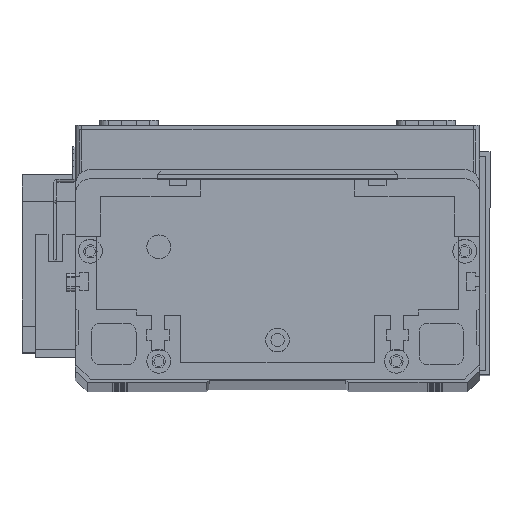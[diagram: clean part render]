
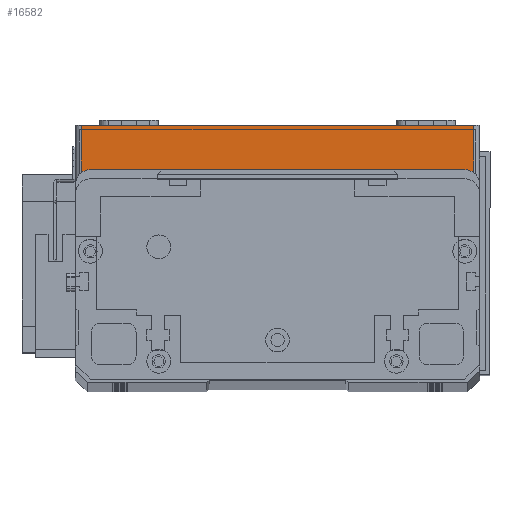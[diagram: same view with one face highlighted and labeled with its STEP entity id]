
A CAD part, top view. The second image highlights one B-rep face of the part: STEP entity #16582.
In plain terms, the highlighted planar face has unit normal (0, 0, 1) as drawn and (0, -1, 0) by its records, which use the part's own axes.
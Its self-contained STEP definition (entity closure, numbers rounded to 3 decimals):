
#252 = PLANE ( 'NONE',  #4246 ) ;
#352 = DIRECTION ( 'NONE',  ( 0., 1., 0. ) ) ;
#855 = FACE_OUTER_BOUND ( 'NONE', #5738, .T. ) ;
#880 = ORIENTED_EDGE ( 'NONE', *, *, #25293, .T. ) ;
#1802 = CARTESIAN_POINT ( 'NONE',  ( 0., 0., 19.5 ) ) ;
#4246 = AXIS2_PLACEMENT_3D ( 'NONE', #14208, #352, #16556 ) ;
#4679 = VECTOR ( 'NONE', #20332, 1000. ) ;
#5738 = EDGE_LOOP ( 'NONE', ( #5818, #29627, #20882, #880 ) ) ;
#5818 = ORIENTED_EDGE ( 'NONE', *, *, #29061, .F. ) ;
#6071 = VECTOR ( 'NONE', #10865, 1000. ) ;
#6216 = EDGE_CURVE ( 'NONE', #21687, #16202, #7495, .T. ) ;
#7495 = LINE ( 'NONE', #8534, #6071 ) ;
#8189 = CARTESIAN_POINT ( 'NONE',  ( 2., 0., 19.5 ) ) ;
#8534 = CARTESIAN_POINT ( 'NONE',  ( 2., 0., 19.5 ) ) ;
#9792 = VECTOR ( 'NONE', #21276, 1000. ) ;
#10267 = VECTOR ( 'NONE', #16911, 1000. ) ;
#10865 = DIRECTION ( 'NONE',  ( 0., 0., -1. ) ) ;
#10890 = EDGE_CURVE ( 'NONE', #16202, #22338, #18174, .T. ) ;
#11461 = VERTEX_POINT ( 'NONE', #13956 ) ;
#12036 = CARTESIAN_POINT ( 'NONE',  ( 0., 0., 0. ) ) ;
#12041 = CARTESIAN_POINT ( 'NONE',  ( 134., 0., 19.5 ) ) ;
#12391 = CARTESIAN_POINT ( 'NONE',  ( 2., 0., 0. ) ) ;
#13049 = CARTESIAN_POINT ( 'NONE',  ( 134., 0., 0. ) ) ;
#13956 = CARTESIAN_POINT ( 'NONE',  ( 134., 0., 19.5 ) ) ;
#14208 = CARTESIAN_POINT ( 'NONE',  ( 0., 0., 19.5 ) ) ;
#16202 = VERTEX_POINT ( 'NONE', #12391 ) ;
#16556 = DIRECTION ( 'NONE',  ( 0., 0., 1. ) ) ;
#16582 = ADVANCED_FACE ( 'NONE', ( #855 ), #252, .F. ) ;
#16911 = DIRECTION ( 'NONE',  ( 0., 0., 1. ) ) ;
#18174 = LINE ( 'NONE', #12036, #9792 ) ;
#20332 = DIRECTION ( 'NONE',  ( 1., 0., 0. ) ) ;
#20882 = ORIENTED_EDGE ( 'NONE', *, *, #10890, .T. ) ;
#21276 = DIRECTION ( 'NONE',  ( 1., 0., 0. ) ) ;
#21687 = VERTEX_POINT ( 'NONE', #8189 ) ;
#22338 = VERTEX_POINT ( 'NONE', #13049 ) ;
#23136 = LINE ( 'NONE', #1802, #4679 ) ;
#25293 = EDGE_CURVE ( 'NONE', #22338, #11461, #29526, .T. ) ;
#29061 = EDGE_CURVE ( 'NONE', #21687, #11461, #23136, .T. ) ;
#29526 = LINE ( 'NONE', #12041, #10267 ) ;
#29627 = ORIENTED_EDGE ( 'NONE', *, *, #6216, .T. ) ;
